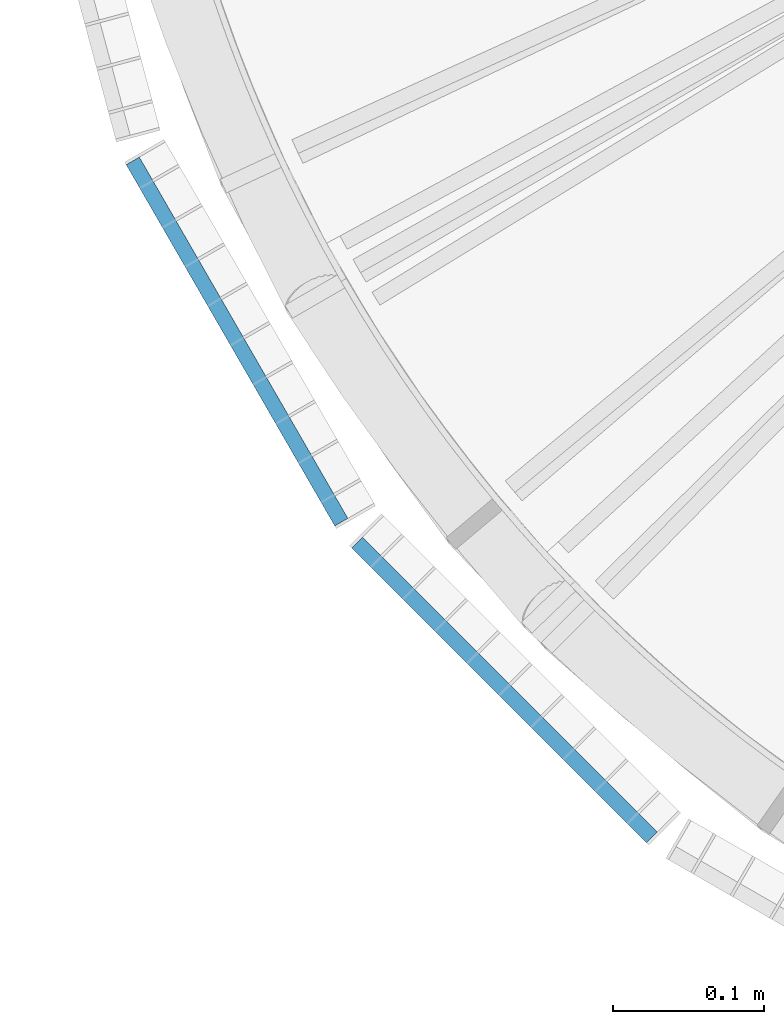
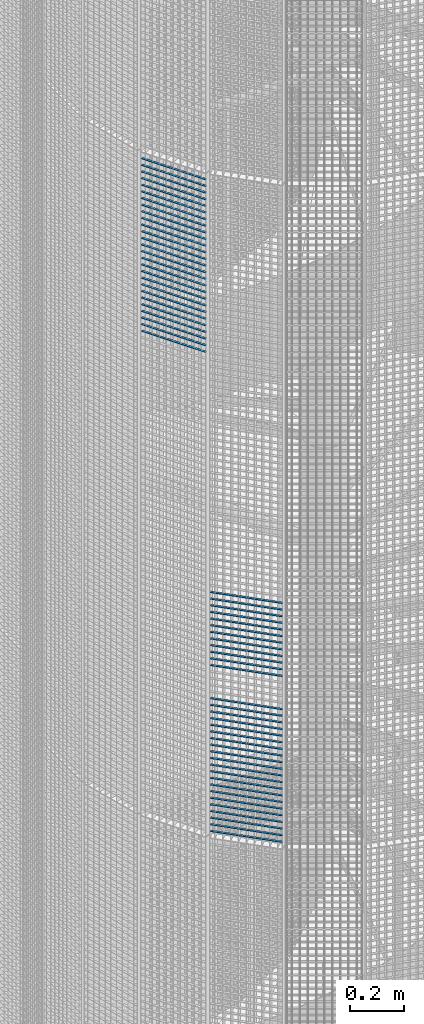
# One storey, part 114 of 1148: 60 beams, 2 elements without a shape of their own.
"""IFC2X3 building model written with IfcOpenShell, lengths in millimetres."""

from ifc_helpers import new_model, si_unit, frame, origin_with_axes, origin_2d_with_axis, place, context, subcontext, project, spatial, rectangle, extrude, material, type_object, element, aggregate, save


model = new_model("IFC2X3")

# Units and contexts
model_context = context("Model", 3, precision=1e-05, world=origin_with_axes())
body_context = subcontext(model_context, "Body", "Model", "MODEL_VIEW")
ifc_project = project(units=[si_unit("LENGTHUNIT", "METRE", prefix="MILLI"), si_unit("AREAUNIT", "SQUARE_METRE"), si_unit("VOLUMEUNIT", "CUBIC_METRE"), si_unit("MASSUNIT", "GRAM", prefix="KILO"), si_unit("TIMEUNIT", "SECOND"), si_unit("PLANEANGLEUNIT", "RADIAN"), si_unit("SOLIDANGLEUNIT", "STERADIAN"), si_unit("THERMODYNAMICTEMPERATUREUNIT", "DEGREE_CELSIUS"), si_unit("LUMINOUSINTENSITYUNIT", "LUMEN")], contexts=[model_context])

# Site, building, storey
site_placement = place(None, origin_with_axes())
site = spatial("IfcSite", under=ifc_project, at=site_placement, Name="Undefined", CompositionType="ELEMENT")
building_placement = place(site_placement, origin_with_axes())
building = spatial("IfcBuilding", under=site, at=building_placement, Name="Undefined", CompositionType="ELEMENT")
storey_placement = place(building_placement, origin_with_axes())
storey = spatial("IfcBuildingStorey", under=building, at=storey_placement, Name="Undefined", CompositionType="ELEMENT", Elevation=0.0)

# Assembly, beams
assembly_1_placement = place(storey_placement, origin_with_axes())
assembly_1 = element("IfcElementAssembly", 1, at=assembly_1_placement, inside=storey, Name="BORDURE", AssemblyPlace="NOTDEFINED", PredefinedType="NOTDEFINED")
ifc_material = material(Name="STEEL/S235JR")
beam_type = type_object("IfcBeamType", Name="PL2*10", PredefinedType="NOTDEFINED")
beam_1_placement = place(assembly_1_placement, frame((-884.927168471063, -689.771348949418, 9630.0), z_axis=(-0.70710678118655, -0.707106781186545, 0.0), x_axis=(0.707106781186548, -0.707106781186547, 0.0)))
beam_1 = element("IfcBeam", 2, at=beam_1_placement, type_object=beam_type, material=ifc_material, Name="ENTRETOISE", context=body_context, shape_type="SweptSolid", body=[
    extrude(rectangle(XDim=2.0, YDim=10.0, at=origin_2d_with_axis()), frame((275.999999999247, 9.09494701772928e-13, 1.53210777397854e-14), z_axis=(-1.0, 0.0, 0.0), x_axis=(0.0, -1.0, 0.0)), (0.0, 0.0, 1.0), 276.0),
])
beam_2_placement = place(assembly_1_placement, frame((-884.927168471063, -689.771348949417, 9780.0), z_axis=(-0.70710678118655, -0.707106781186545, 0.0), x_axis=(0.707106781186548, -0.707106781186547, 0.0)))
beam_2 = element("IfcBeam", 3, at=beam_2_placement, type_object=beam_type, material=ifc_material, Name="ENTRETOISE", context=body_context, shape_type="SweptSolid", body=[
    extrude(rectangle(XDim=2.0, YDim=10.0, at=origin_2d_with_axis()), frame((275.999999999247, 9.09494701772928e-13, 1.53210777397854e-14), z_axis=(-1.0, 0.0, 0.0), x_axis=(0.0, -1.0, 0.0)), (0.0, 0.0, 1.0), 276.0),
])
beam_3_placement = place(assembly_1_placement, frame((-884.927168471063, -689.771348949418, 9600.0), z_axis=(-0.70710678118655, -0.707106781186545, 0.0), x_axis=(0.707106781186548, -0.707106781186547, 0.0)))
beam_3 = element("IfcBeam", 4, at=beam_3_placement, type_object=beam_type, material=ifc_material, Name="ENTRETOISE", context=body_context, shape_type="SweptSolid", body=[
    extrude(rectangle(XDim=2.0, YDim=10.0, at=origin_2d_with_axis()), frame((275.999999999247, 9.09494701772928e-13, 1.53210777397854e-14), z_axis=(-1.0, 0.0, 0.0), x_axis=(0.0, -1.0, 0.0)), (0.0, 0.0, 1.0), 276.0),
])
beam_4_placement = place(assembly_1_placement, frame((-884.927168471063, -689.771348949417, 9810.0), z_axis=(-0.70710678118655, -0.707106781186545, 0.0), x_axis=(0.707106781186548, -0.707106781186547, 0.0)))
beam_4 = element("IfcBeam", 5, at=beam_4_placement, type_object=beam_type, material=ifc_material, Name="ENTRETOISE", context=body_context, shape_type="SweptSolid", body=[
    extrude(rectangle(XDim=2.0, YDim=10.0, at=origin_2d_with_axis()), frame((275.999999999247, 9.09494701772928e-13, 1.53210777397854e-14), z_axis=(-1.0, 0.0, 0.0), x_axis=(0.0, -1.0, 0.0)), (0.0, 0.0, 1.0), 276.0),
])
beam_5_placement = place(assembly_1_placement, frame((-884.927168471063, -689.771348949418, 9570.0), z_axis=(-0.70710678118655, -0.707106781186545, 0.0), x_axis=(0.707106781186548, -0.707106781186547, 0.0)))
beam_5 = element("IfcBeam", 6, at=beam_5_placement, type_object=beam_type, material=ifc_material, Name="ENTRETOISE", context=body_context, shape_type="SweptSolid", body=[
    extrude(rectangle(XDim=2.0, YDim=10.0, at=origin_2d_with_axis()), frame((275.999999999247, 9.09494701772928e-13, 1.53210777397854e-14), z_axis=(-1.0, 0.0, 0.0), x_axis=(0.0, -1.0, 0.0)), (0.0, 0.0, 1.0), 276.0),
])
beam_6_placement = place(assembly_1_placement, frame((-884.927168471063, -689.771348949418, 9540.0), z_axis=(-0.70710678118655, -0.707106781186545, 0.0), x_axis=(0.707106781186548, -0.707106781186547, 0.0)))
beam_6 = element("IfcBeam", 7, at=beam_6_placement, type_object=beam_type, material=ifc_material, Name="ENTRETOISE", context=body_context, shape_type="SweptSolid", body=[
    extrude(rectangle(XDim=2.0, YDim=10.0, at=origin_2d_with_axis()), frame((275.999999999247, 9.09494701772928e-13, 1.53210777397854e-14), z_axis=(-1.0, 0.0, 0.0), x_axis=(0.0, -1.0, 0.0)), (0.0, 0.0, 1.0), 276.0),
])
beam_7_placement = place(assembly_1_placement, frame((-884.927168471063, -689.771348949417, 9840.0), z_axis=(-0.70710678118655, -0.707106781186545, 0.0), x_axis=(0.707106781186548, -0.707106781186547, 0.0)))
beam_7 = element("IfcBeam", 8, at=beam_7_placement, type_object=beam_type, material=ifc_material, Name="ENTRETOISE", context=body_context, shape_type="SweptSolid", body=[
    extrude(rectangle(XDim=2.0, YDim=10.0, at=origin_2d_with_axis()), frame((275.999999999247, 9.09494701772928e-13, 1.53210777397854e-14), z_axis=(-1.0, 0.0, 0.0), x_axis=(0.0, -1.0, 0.0)), (0.0, 0.0, 1.0), 276.0),
])
beam_8_placement = place(assembly_1_placement, frame((-884.927168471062, -689.771348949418, 9510.0), z_axis=(-0.70710678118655, -0.707106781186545, 0.0), x_axis=(0.707106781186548, -0.707106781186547, 0.0)))
beam_8 = element("IfcBeam", 9, at=beam_8_placement, type_object=beam_type, material=ifc_material, Name="ENTRETOISE", context=body_context, shape_type="SweptSolid", body=[
    extrude(rectangle(XDim=2.0, YDim=10.0, at=origin_2d_with_axis()), frame((275.999999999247, 9.09494701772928e-13, 1.53210777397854e-14), z_axis=(-1.0, 0.0, 0.0), x_axis=(0.0, -1.0, 0.0)), (0.0, 0.0, 1.0), 276.0),
])
beam_9_placement = place(assembly_1_placement, frame((-884.927168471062, -689.771348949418, 9480.0), z_axis=(-0.70710678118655, -0.707106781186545, 0.0), x_axis=(0.707106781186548, -0.707106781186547, 0.0)))
beam_9 = element("IfcBeam", 10, at=beam_9_placement, type_object=beam_type, material=ifc_material, Name="ENTRETOISE", context=body_context, shape_type="SweptSolid", body=[
    extrude(rectangle(XDim=2.0, YDim=10.0, at=origin_2d_with_axis()), frame((275.999999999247, 9.09494701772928e-13, 1.53210777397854e-14), z_axis=(-1.0, 0.0, 0.0), x_axis=(0.0, -1.0, 0.0)), (0.0, 0.0, 1.0), 276.0),
])
beam_10_placement = place(assembly_1_placement, frame((-884.927168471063, -689.771348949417, 9870.0), z_axis=(-0.70710678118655, -0.707106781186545, 0.0), x_axis=(0.707106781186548, -0.707106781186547, 0.0)))
beam_10 = element("IfcBeam", 11, at=beam_10_placement, type_object=beam_type, material=ifc_material, Name="ENTRETOISE", context=body_context, shape_type="SweptSolid", body=[
    extrude(rectangle(XDim=2.0, YDim=10.0, at=origin_2d_with_axis()), frame((275.999999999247, 9.09494701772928e-13, 1.53210777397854e-14), z_axis=(-1.0, 0.0, 0.0), x_axis=(0.0, -1.0, 0.0)), (0.0, 0.0, 1.0), 276.0),
])
beam_11_placement = place(assembly_1_placement, frame((-884.927168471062, -689.771348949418, 9450.0), z_axis=(-0.70710678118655, -0.707106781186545, 0.0), x_axis=(0.707106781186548, -0.707106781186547, 0.0)))
beam_11 = element("IfcBeam", 12, at=beam_11_placement, type_object=beam_type, material=ifc_material, Name="ENTRETOISE", context=body_context, shape_type="SweptSolid", body=[
    extrude(rectangle(XDim=2.0, YDim=10.0, at=origin_2d_with_axis()), frame((275.999999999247, 9.09494701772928e-13, 1.53210777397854e-14), z_axis=(-1.0, 0.0, 0.0), x_axis=(0.0, -1.0, 0.0)), (0.0, 0.0, 1.0), 276.0),
])
beam_12_placement = place(assembly_1_placement, frame((-884.927168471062, -689.771348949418, 9420.0), z_axis=(-0.70710678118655, -0.707106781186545, 0.0), x_axis=(0.707106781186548, -0.707106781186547, 0.0)))
beam_12 = element("IfcBeam", 13, at=beam_12_placement, type_object=beam_type, material=ifc_material, Name="ENTRETOISE", context=body_context, shape_type="SweptSolid", body=[
    extrude(rectangle(XDim=2.0, YDim=10.0, at=origin_2d_with_axis()), frame((275.999999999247, 9.09494701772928e-13, 1.53210777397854e-14), z_axis=(-1.0, 0.0, 0.0), x_axis=(0.0, -1.0, 0.0)), (0.0, 0.0, 1.0), 276.0),
])
beam_13_placement = place(assembly_1_placement, frame((-884.927168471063, -689.771348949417, 9900.0), z_axis=(-0.70710678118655, -0.707106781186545, 0.0), x_axis=(0.707106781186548, -0.707106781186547, 0.0)))
beam_13 = element("IfcBeam", 14, at=beam_13_placement, type_object=beam_type, material=ifc_material, Name="ENTRETOISE", context=body_context, shape_type="SweptSolid", body=[
    extrude(rectangle(XDim=2.0, YDim=10.0, at=origin_2d_with_axis()), frame((275.999999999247, 9.09494701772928e-13, 1.53210777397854e-14), z_axis=(-1.0, 0.0, 0.0), x_axis=(0.0, -1.0, 0.0)), (0.0, 0.0, 1.0), 276.0),
])
beam_14_placement = place(assembly_1_placement, frame((-884.927168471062, -689.771348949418, 9390.0), z_axis=(-0.70710678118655, -0.707106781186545, 0.0), x_axis=(0.707106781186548, -0.707106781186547, 0.0)))
beam_14 = element("IfcBeam", 15, at=beam_14_placement, type_object=beam_type, material=ifc_material, Name="ENTRETOISE", context=body_context, shape_type="SweptSolid", body=[
    extrude(rectangle(XDim=2.0, YDim=10.0, at=origin_2d_with_axis()), frame((275.999999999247, 9.09494701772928e-13, 1.53210777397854e-14), z_axis=(-1.0, 0.0, 0.0), x_axis=(0.0, -1.0, 0.0)), (0.0, 0.0, 1.0), 276.0),
])
beam_15_placement = place(assembly_1_placement, frame((-884.927168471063, -689.771348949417, 9930.0), z_axis=(-0.70710678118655, -0.707106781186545, 0.0), x_axis=(0.707106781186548, -0.707106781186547, 0.0)))
beam_15 = element("IfcBeam", 16, at=beam_15_placement, type_object=beam_type, material=ifc_material, Name="ENTRETOISE", context=body_context, shape_type="SweptSolid", body=[
    extrude(rectangle(XDim=2.0, YDim=10.0, at=origin_2d_with_axis()), frame((275.999999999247, 9.09494701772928e-13, 1.53210777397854e-14), z_axis=(-1.0, 0.0, 0.0), x_axis=(0.0, -1.0, 0.0)), (0.0, 0.0, 1.0), 276.0),
])
beam_16_placement = place(assembly_1_placement, frame((-884.927168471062, -689.771348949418, 9360.0), z_axis=(-0.70710678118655, -0.707106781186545, 0.0), x_axis=(0.707106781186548, -0.707106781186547, 0.0)))
beam_16 = element("IfcBeam", 17, at=beam_16_placement, type_object=beam_type, material=ifc_material, Name="ENTRETOISE", context=body_context, shape_type="SweptSolid", body=[
    extrude(rectangle(XDim=2.0, YDim=10.0, at=origin_2d_with_axis()), frame((275.999999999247, 9.09494701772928e-13, 1.53210777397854e-14), z_axis=(-1.0, 0.0, 0.0), x_axis=(0.0, -1.0, 0.0)), (0.0, 0.0, 1.0), 276.0),
])
beam_17_placement = place(assembly_1_placement, frame((-884.927168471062, -689.771348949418, 9330.0), z_axis=(-0.70710678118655, -0.707106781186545, 0.0), x_axis=(0.707106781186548, -0.707106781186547, 0.0)))
beam_17 = element("IfcBeam", 18, at=beam_17_placement, type_object=beam_type, material=ifc_material, Name="ENTRETOISE", context=body_context, shape_type="SweptSolid", body=[
    extrude(rectangle(XDim=2.0, YDim=10.0, at=origin_2d_with_axis()), frame((275.999999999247, 9.09494701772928e-13, 1.53210777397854e-14), z_axis=(-1.0, 0.0, 0.0), x_axis=(0.0, -1.0, 0.0)), (0.0, 0.0, 1.0), 276.0),
])
beam_18_placement = place(assembly_1_placement, frame((-884.927168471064, -689.771348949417, 9960.0), z_axis=(-0.70710678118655, -0.707106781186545, 0.0), x_axis=(0.707106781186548, -0.707106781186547, 0.0)))
beam_18 = element("IfcBeam", 19, at=beam_18_placement, type_object=beam_type, material=ifc_material, Name="ENTRETOISE", context=body_context, shape_type="SweptSolid", body=[
    extrude(rectangle(XDim=2.0, YDim=10.0, at=origin_2d_with_axis()), frame((275.999999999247, 9.09494701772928e-13, 1.53210777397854e-14), z_axis=(-1.0, 0.0, 0.0), x_axis=(0.0, -1.0, 0.0)), (0.0, 0.0, 1.0), 276.0),
])
beam_19_placement = place(assembly_1_placement, frame((-884.927168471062, -689.771348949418, 9300.0), z_axis=(-0.70710678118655, -0.707106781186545, 0.0), x_axis=(0.707106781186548, -0.707106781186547, 0.0)))
beam_19 = element("IfcBeam", 20, at=beam_19_placement, type_object=beam_type, material=ifc_material, Name="ENTRETOISE", context=body_context, shape_type="SweptSolid", body=[
    extrude(rectangle(XDim=2.0, YDim=10.0, at=origin_2d_with_axis()), frame((275.999999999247, 9.09494701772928e-13, 1.53210777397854e-14), z_axis=(-1.0, 0.0, 0.0), x_axis=(0.0, -1.0, 0.0)), (0.0, 0.0, 1.0), 276.0),
])
beam_20_placement = place(assembly_1_placement, frame((-884.927168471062, -689.771348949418, 9270.0), z_axis=(-0.70710678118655, -0.707106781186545, 0.0), x_axis=(0.707106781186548, -0.707106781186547, 0.0)))
beam_20 = element("IfcBeam", 21, at=beam_20_placement, type_object=beam_type, material=ifc_material, Name="ENTRETOISE", context=body_context, shape_type="SweptSolid", body=[
    extrude(rectangle(XDim=2.0, YDim=10.0, at=origin_2d_with_axis()), frame((275.999999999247, 9.09494701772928e-13, 1.53210777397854e-14), z_axis=(-1.0, 0.0, 0.0), x_axis=(0.0, -1.0, 0.0)), (0.0, 0.0, 1.0), 276.0),
])
beam_21_placement = place(assembly_1_placement, frame((-884.927168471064, -689.771348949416, 9990.0), z_axis=(-0.70710678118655, -0.707106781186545, 0.0), x_axis=(0.707106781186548, -0.707106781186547, 0.0)))
beam_21 = element("IfcBeam", 22, at=beam_21_placement, type_object=beam_type, material=ifc_material, Name="ENTRETOISE", context=body_context, shape_type="SweptSolid", body=[
    extrude(rectangle(XDim=2.0, YDim=10.0, at=origin_2d_with_axis()), frame((275.999999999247, 9.09494701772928e-13, 1.53210777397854e-14), z_axis=(-1.0, 0.0, 0.0), x_axis=(0.0, -1.0, 0.0)), (0.0, 0.0, 1.0), 276.0),
])
beam_22_placement = place(assembly_1_placement, frame((-884.927168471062, -689.771348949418, 9240.0), z_axis=(-0.70710678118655, -0.707106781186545, 0.0), x_axis=(0.707106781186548, -0.707106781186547, 0.0)))
beam_22 = element("IfcBeam", 23, at=beam_22_placement, type_object=beam_type, material=ifc_material, Name="ENTRETOISE", context=body_context, shape_type="SweptSolid", body=[
    extrude(rectangle(XDim=2.0, YDim=10.0, at=origin_2d_with_axis()), frame((275.999999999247, 9.09494701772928e-13, 1.53210777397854e-14), z_axis=(-1.0, 0.0, 0.0), x_axis=(0.0, -1.0, 0.0)), (0.0, 0.0, 1.0), 276.0),
])
beam_23_placement = place(assembly_1_placement, frame((-884.927168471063, -689.771348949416, 10020.0), z_axis=(-0.70710678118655, -0.707106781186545, 0.0), x_axis=(0.707106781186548, -0.707106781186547, 0.0)))
beam_23 = element("IfcBeam", 24, at=beam_23_placement, type_object=beam_type, material=ifc_material, Name="ENTRETOISE", context=body_context, shape_type="SweptSolid", body=[
    extrude(rectangle(XDim=2.0, YDim=10.0, at=origin_2d_with_axis()), frame((275.999999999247, 9.09494701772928e-13, 1.53210777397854e-14), z_axis=(-1.0, 0.0, 0.0), x_axis=(0.0, -1.0, 0.0)), (0.0, 0.0, 1.0), 276.0),
])
beam_24_placement = place(assembly_1_placement, frame((-884.927168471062, -689.771348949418, 9210.0), z_axis=(-0.70710678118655, -0.707106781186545, 0.0), x_axis=(0.707106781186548, -0.707106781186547, 0.0)))
beam_24 = element("IfcBeam", 25, at=beam_24_placement, type_object=beam_type, material=ifc_material, Name="ENTRETOISE", context=body_context, shape_type="SweptSolid", body=[
    extrude(rectangle(XDim=2.0, YDim=10.0, at=origin_2d_with_axis()), frame((275.999999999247, 9.09494701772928e-13, 1.53210777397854e-14), z_axis=(-1.0, 0.0, 0.0), x_axis=(0.0, -1.0, 0.0)), (0.0, 0.0, 1.0), 276.0),
])
beam_25_placement = place(assembly_1_placement, frame((-884.927168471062, -689.771348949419, 9180.0), z_axis=(-0.70710678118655, -0.707106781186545, 0.0), x_axis=(0.707106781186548, -0.707106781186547, 0.0)))
beam_25 = element("IfcBeam", 26, at=beam_25_placement, type_object=beam_type, material=ifc_material, Name="ENTRETOISE", context=body_context, shape_type="SweptSolid", body=[
    extrude(rectangle(XDim=2.0, YDim=10.0, at=origin_2d_with_axis()), frame((275.999999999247, 9.09494701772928e-13, 1.53210777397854e-14), z_axis=(-1.0, 0.0, 0.0), x_axis=(0.0, -1.0, 0.0)), (0.0, 0.0, 1.0), 276.0),
])
beam_26_placement = place(assembly_1_placement, frame((-884.927168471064, -689.771348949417, 10050.0), z_axis=(-0.70710678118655, -0.707106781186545, 0.0), x_axis=(0.707106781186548, -0.707106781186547, 0.0)))
beam_26 = element("IfcBeam", 27, at=beam_26_placement, type_object=beam_type, material=ifc_material, Name="ENTRETOISE", context=body_context, shape_type="SweptSolid", body=[
    extrude(rectangle(XDim=2.0, YDim=10.0, at=origin_2d_with_axis()), frame((275.999999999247, 9.09494701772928e-13, 1.53210777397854e-14), z_axis=(-1.0, 0.0, 0.0), x_axis=(0.0, -1.0, 0.0)), (0.0, 0.0, 1.0), 276.0),
])
beam_27_placement = place(assembly_1_placement, frame((-884.927168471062, -689.771348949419, 9150.0), z_axis=(-0.70710678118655, -0.707106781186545, 0.0), x_axis=(0.707106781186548, -0.707106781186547, 0.0)))
beam_27 = element("IfcBeam", 28, at=beam_27_placement, type_object=beam_type, material=ifc_material, Name="ENTRETOISE", context=body_context, shape_type="SweptSolid", body=[
    extrude(rectangle(XDim=2.0, YDim=10.0, at=origin_2d_with_axis()), frame((275.999999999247, 9.09494701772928e-13, 1.53210777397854e-14), z_axis=(-1.0, 0.0, 0.0), x_axis=(0.0, -1.0, 0.0)), (0.0, 0.0, 1.0), 276.0),
])
beam_28_placement = place(assembly_1_placement, frame((-884.927168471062, -689.771348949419, 9120.0), z_axis=(-0.70710678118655, -0.707106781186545, 0.0), x_axis=(0.707106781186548, -0.707106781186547, 0.0)))
beam_28 = element("IfcBeam", 29, at=beam_28_placement, type_object=beam_type, material=ifc_material, Name="ENTRETOISE", context=body_context, shape_type="SweptSolid", body=[
    extrude(rectangle(XDim=2.0, YDim=10.0, at=origin_2d_with_axis()), frame((275.999999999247, 9.09494701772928e-13, 1.53210777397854e-14), z_axis=(-1.0, 0.0, 0.0), x_axis=(0.0, -1.0, 0.0)), (0.0, 0.0, 1.0), 276.0),
])
beam_29_placement = place(assembly_1_placement, frame((-884.927168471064, -689.771348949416, 10080.0), z_axis=(-0.70710678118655, -0.707106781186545, 0.0), x_axis=(0.707106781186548, -0.707106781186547, 0.0)))
beam_29 = element("IfcBeam", 30, at=beam_29_placement, type_object=beam_type, material=ifc_material, Name="ENTRETOISE", context=body_context, shape_type="SweptSolid", body=[
    extrude(rectangle(XDim=2.0, YDim=10.0, at=origin_2d_with_axis()), frame((275.999999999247, 9.09494701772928e-13, 1.53210777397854e-14), z_axis=(-1.0, 0.0, 0.0), x_axis=(0.0, -1.0, 0.0)), (0.0, 0.0, 1.0), 276.0),
])
beam_30_placement = place(assembly_1_placement, frame((-884.927168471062, -689.771348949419, 9090.0), z_axis=(-0.70710678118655, -0.707106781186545, 0.0), x_axis=(0.707106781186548, -0.707106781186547, 0.0)))
beam_30 = element("IfcBeam", 31, at=beam_30_placement, type_object=beam_type, material=ifc_material, Name="ENTRETOISE", context=body_context, shape_type="SweptSolid", body=[
    extrude(rectangle(XDim=2.0, YDim=10.0, at=origin_2d_with_axis()), frame((275.999999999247, 9.09494701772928e-13, 1.53210777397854e-14), z_axis=(-1.0, 0.0, 0.0), x_axis=(0.0, -1.0, 0.0)), (0.0, 0.0, 1.0), 276.0),
])
beam_31_placement = place(assembly_1_placement, frame((-884.927168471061, -689.771348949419, 9060.0), z_axis=(-0.70710678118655, -0.707106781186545, 0.0), x_axis=(0.707106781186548, -0.707106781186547, 0.0)))
beam_31 = element("IfcBeam", 32, at=beam_31_placement, type_object=beam_type, material=ifc_material, Name="ENTRETOISE", context=body_context, shape_type="SweptSolid", body=[
    extrude(rectangle(XDim=2.0, YDim=10.0, at=origin_2d_with_axis()), frame((275.999999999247, 9.09494701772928e-13, 1.53210777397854e-14), z_axis=(-1.0, 0.0, 0.0), x_axis=(0.0, -1.0, 0.0)), (0.0, 0.0, 1.0), 276.0),
])
beam_32_placement = place(assembly_1_placement, frame((-884.927168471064, -689.771348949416, 10110.0), z_axis=(-0.70710678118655, -0.707106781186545, 0.0), x_axis=(0.707106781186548, -0.707106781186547, 0.0)))
beam_32 = element("IfcBeam", 33, at=beam_32_placement, type_object=beam_type, material=ifc_material, Name="ENTRETOISE", context=body_context, shape_type="SweptSolid", body=[
    extrude(rectangle(XDim=2.0, YDim=10.0, at=origin_2d_with_axis()), frame((275.999999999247, 9.09494701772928e-13, 1.53210777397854e-14), z_axis=(-1.0, 0.0, 0.0), x_axis=(0.0, -1.0, 0.0)), (0.0, 0.0, 1.0), 276.0),
])
beam_33_placement = place(assembly_1_placement, frame((-884.92716847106, -689.771348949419, 9030.0), z_axis=(-0.70710678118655, -0.707106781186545, 0.0), x_axis=(0.707106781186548, -0.707106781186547, 0.0)))
beam_33 = element("IfcBeam", 34, at=beam_33_placement, type_object=beam_type, material=ifc_material, Name="ENTRETOISE", context=body_context, shape_type="SweptSolid", body=[
    extrude(rectangle(XDim=2.0, YDim=10.0, at=origin_2d_with_axis()), frame((275.999999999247, 9.09494701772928e-13, 1.53210777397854e-14), z_axis=(-1.0, 0.0, 0.0), x_axis=(0.0, -1.0, 0.0)), (0.0, 0.0, 1.0), 276.0),
])
aggregate(assembly_1, [beam_1, beam_2, beam_3, beam_4, beam_5, beam_6, beam_7, beam_8, beam_9, beam_10, beam_11, beam_12, beam_13, beam_14, beam_15, beam_16, beam_17, beam_18, beam_19, beam_20, beam_21, beam_22, beam_23, beam_24, beam_25, beam_26, beam_27, beam_28, beam_29, beam_30, beam_31, beam_32, beam_33])

assembly_2_placement = place(storey_placement, origin_with_axes())
assembly_2 = element("IfcElementAssembly", 35, at=assembly_2_placement, inside=storey, Name="BORDURE", AssemblyPlace="NOTDEFINED", PredefinedType="NOTDEFINED")
beam_34_placement = place(assembly_2_placement, frame((-1033.29996828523, -437.231955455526, 11970.0), z_axis=(-0.866025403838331, -0.499999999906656, 0.0), x_axis=(0.499999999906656, -0.866025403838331, 0.0)))
beam_34 = element("IfcBeam", 36, at=beam_34_placement, type_object=beam_type, material=ifc_material, Name="ENTRETOISE", context=body_context, shape_type="SweptSolid", body=[
    extrude(rectangle(XDim=2.0, YDim=10.0, at=origin_2d_with_axis()), frame((275.999999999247, 9.09494701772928e-13, 1.53210777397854e-14), z_axis=(-1.0, 0.0, 0.0), x_axis=(0.0, -1.0, 0.0)), (0.0, 0.0, 1.0), 276.0),
])
beam_35_placement = place(assembly_2_placement, frame((-1033.29996828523, -437.231955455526, 11940.0), z_axis=(-0.866025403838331, -0.499999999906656, 0.0), x_axis=(0.499999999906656, -0.866025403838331, 0.0)))
beam_35 = element("IfcBeam", 37, at=beam_35_placement, type_object=beam_type, material=ifc_material, Name="ENTRETOISE", context=body_context, shape_type="SweptSolid", body=[
    extrude(rectangle(XDim=2.0, YDim=10.0, at=origin_2d_with_axis()), frame((275.999999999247, 9.09494701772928e-13, 1.53210777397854e-14), z_axis=(-1.0, 0.0, 0.0), x_axis=(0.0, -1.0, 0.0)), (0.0, 0.0, 1.0), 276.0),
])
beam_36_placement = place(assembly_2_placement, frame((-1033.29996828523, -437.231955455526, 11910.0), z_axis=(-0.866025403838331, -0.499999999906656, 0.0), x_axis=(0.499999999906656, -0.866025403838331, 0.0)))
beam_36 = element("IfcBeam", 38, at=beam_36_placement, type_object=beam_type, material=ifc_material, Name="ENTRETOISE", context=body_context, shape_type="SweptSolid", body=[
    extrude(rectangle(XDim=2.0, YDim=10.0, at=origin_2d_with_axis()), frame((275.999999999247, 9.09494701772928e-13, 1.53210777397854e-14), z_axis=(-1.0, 0.0, 0.0), x_axis=(0.0, -1.0, 0.0)), (0.0, 0.0, 1.0), 276.0),
])
beam_37_placement = place(assembly_2_placement, frame((-1033.29996828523, -437.231955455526, 11880.0), z_axis=(-0.866025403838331, -0.499999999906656, 0.0), x_axis=(0.499999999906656, -0.866025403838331, 0.0)))
beam_37 = element("IfcBeam", 39, at=beam_37_placement, type_object=beam_type, material=ifc_material, Name="ENTRETOISE", context=body_context, shape_type="SweptSolid", body=[
    extrude(rectangle(XDim=2.0, YDim=10.0, at=origin_2d_with_axis()), frame((275.999999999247, 9.09494701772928e-13, 1.53210777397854e-14), z_axis=(-1.0, 0.0, 0.0), x_axis=(0.0, -1.0, 0.0)), (0.0, 0.0, 1.0), 276.0),
])
beam_38_placement = place(assembly_2_placement, frame((-1033.29996828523, -437.231955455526, 11850.0), z_axis=(-0.866025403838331, -0.499999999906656, 0.0), x_axis=(0.499999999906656, -0.866025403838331, 0.0)))
beam_38 = element("IfcBeam", 40, at=beam_38_placement, type_object=beam_type, material=ifc_material, Name="ENTRETOISE", context=body_context, shape_type="SweptSolid", body=[
    extrude(rectangle(XDim=2.0, YDim=10.0, at=origin_2d_with_axis()), frame((275.999999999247, 9.09494701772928e-13, 1.53210777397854e-14), z_axis=(-1.0, 0.0, 0.0), x_axis=(0.0, -1.0, 0.0)), (0.0, 0.0, 1.0), 276.0),
])
beam_39_placement = place(assembly_2_placement, frame((-1033.29996828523, -437.231955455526, 11820.0), z_axis=(-0.866025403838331, -0.499999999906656, 0.0), x_axis=(0.499999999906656, -0.866025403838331, 0.0)))
beam_39 = element("IfcBeam", 41, at=beam_39_placement, type_object=beam_type, material=ifc_material, Name="ENTRETOISE", context=body_context, shape_type="SweptSolid", body=[
    extrude(rectangle(XDim=2.0, YDim=10.0, at=origin_2d_with_axis()), frame((275.999999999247, 9.09494701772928e-13, 1.53210777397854e-14), z_axis=(-1.0, 0.0, 0.0), x_axis=(0.0, -1.0, 0.0)), (0.0, 0.0, 1.0), 276.0),
])
beam_40_placement = place(assembly_2_placement, frame((-1033.29996828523, -437.231955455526, 11790.0), z_axis=(-0.866025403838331, -0.499999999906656, 0.0), x_axis=(0.499999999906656, -0.866025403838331, 0.0)))
beam_40 = element("IfcBeam", 42, at=beam_40_placement, type_object=beam_type, material=ifc_material, Name="ENTRETOISE", context=body_context, shape_type="SweptSolid", body=[
    extrude(rectangle(XDim=2.0, YDim=10.0, at=origin_2d_with_axis()), frame((275.999999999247, 9.09494701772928e-13, 1.53210777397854e-14), z_axis=(-1.0, 0.0, 0.0), x_axis=(0.0, -1.0, 0.0)), (0.0, 0.0, 1.0), 276.0),
])
beam_41_placement = place(assembly_2_placement, frame((-1033.29996828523, -437.231955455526, 11760.0), z_axis=(-0.866025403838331, -0.499999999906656, 0.0), x_axis=(0.499999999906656, -0.866025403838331, 0.0)))
beam_41 = element("IfcBeam", 43, at=beam_41_placement, type_object=beam_type, material=ifc_material, Name="ENTRETOISE", context=body_context, shape_type="SweptSolid", body=[
    extrude(rectangle(XDim=2.0, YDim=10.0, at=origin_2d_with_axis()), frame((275.999999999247, 9.09494701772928e-13, 1.53210777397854e-14), z_axis=(-1.0, 0.0, 0.0), x_axis=(0.0, -1.0, 0.0)), (0.0, 0.0, 1.0), 276.0),
])
beam_42_placement = place(assembly_2_placement, frame((-1033.29996828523, -437.231955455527, 11730.0), z_axis=(-0.866025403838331, -0.499999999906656, 0.0), x_axis=(0.499999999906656, -0.866025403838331, 0.0)))
beam_42 = element("IfcBeam", 44, at=beam_42_placement, type_object=beam_type, material=ifc_material, Name="ENTRETOISE", context=body_context, shape_type="SweptSolid", body=[
    extrude(rectangle(XDim=2.0, YDim=10.0, at=origin_2d_with_axis()), frame((275.999999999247, 9.09494701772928e-13, 1.53210777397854e-14), z_axis=(-1.0, 0.0, 0.0), x_axis=(0.0, -1.0, 0.0)), (0.0, 0.0, 1.0), 276.0),
])
beam_43_placement = place(assembly_2_placement, frame((-1033.29996828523, -437.231955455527, 11700.0), z_axis=(-0.866025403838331, -0.499999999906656, 0.0), x_axis=(0.499999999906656, -0.866025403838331, 0.0)))
beam_43 = element("IfcBeam", 45, at=beam_43_placement, type_object=beam_type, material=ifc_material, Name="ENTRETOISE", context=body_context, shape_type="SweptSolid", body=[
    extrude(rectangle(XDim=2.0, YDim=10.0, at=origin_2d_with_axis()), frame((275.999999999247, 9.09494701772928e-13, 1.53210777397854e-14), z_axis=(-1.0, 0.0, 0.0), x_axis=(0.0, -1.0, 0.0)), (0.0, 0.0, 1.0), 276.0),
])
beam_44_placement = place(assembly_2_placement, frame((-1033.29996828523, -437.231955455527, 11670.0), z_axis=(-0.866025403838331, -0.499999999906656, 0.0), x_axis=(0.499999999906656, -0.866025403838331, 0.0)))
beam_44 = element("IfcBeam", 46, at=beam_44_placement, type_object=beam_type, material=ifc_material, Name="ENTRETOISE", context=body_context, shape_type="SweptSolid", body=[
    extrude(rectangle(XDim=2.0, YDim=10.0, at=origin_2d_with_axis()), frame((275.999999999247, 9.09494701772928e-13, 1.53210777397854e-14), z_axis=(-1.0, 0.0, 0.0), x_axis=(0.0, -1.0, 0.0)), (0.0, 0.0, 1.0), 276.0),
])
beam_45_placement = place(assembly_2_placement, frame((-1033.29996828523, -437.231955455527, 11640.0), z_axis=(-0.866025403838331, -0.499999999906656, 0.0), x_axis=(0.499999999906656, -0.866025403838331, 0.0)))
beam_45 = element("IfcBeam", 47, at=beam_45_placement, type_object=beam_type, material=ifc_material, Name="ENTRETOISE", context=body_context, shape_type="SweptSolid", body=[
    extrude(rectangle(XDim=2.0, YDim=10.0, at=origin_2d_with_axis()), frame((275.999999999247, 9.09494701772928e-13, 1.53210777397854e-14), z_axis=(-1.0, 0.0, 0.0), x_axis=(0.0, -1.0, 0.0)), (0.0, 0.0, 1.0), 276.0),
])
beam_46_placement = place(assembly_2_placement, frame((-1033.29996828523, -437.231955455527, 11610.0), z_axis=(-0.866025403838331, -0.499999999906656, 0.0), x_axis=(0.499999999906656, -0.866025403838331, 0.0)))
beam_46 = element("IfcBeam", 48, at=beam_46_placement, type_object=beam_type, material=ifc_material, Name="ENTRETOISE", context=body_context, shape_type="SweptSolid", body=[
    extrude(rectangle(XDim=2.0, YDim=10.0, at=origin_2d_with_axis()), frame((275.999999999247, 9.09494701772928e-13, 1.53210777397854e-14), z_axis=(-1.0, 0.0, 0.0), x_axis=(0.0, -1.0, 0.0)), (0.0, 0.0, 1.0), 276.0),
])
beam_47_placement = place(assembly_2_placement, frame((-1033.29996828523, -437.231955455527, 11580.0), z_axis=(-0.866025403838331, -0.499999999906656, 0.0), x_axis=(0.499999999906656, -0.866025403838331, 0.0)))
beam_47 = element("IfcBeam", 49, at=beam_47_placement, type_object=beam_type, material=ifc_material, Name="ENTRETOISE", context=body_context, shape_type="SweptSolid", body=[
    extrude(rectangle(XDim=2.0, YDim=10.0, at=origin_2d_with_axis()), frame((275.999999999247, 9.09494701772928e-13, 1.53210777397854e-14), z_axis=(-1.0, 0.0, 0.0), x_axis=(0.0, -1.0, 0.0)), (0.0, 0.0, 1.0), 276.0),
])
beam_48_placement = place(assembly_2_placement, frame((-1033.29996828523, -437.231955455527, 11550.0), z_axis=(-0.866025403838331, -0.499999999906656, 0.0), x_axis=(0.499999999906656, -0.866025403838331, 0.0)))
beam_48 = element("IfcBeam", 50, at=beam_48_placement, type_object=beam_type, material=ifc_material, Name="ENTRETOISE", context=body_context, shape_type="SweptSolid", body=[
    extrude(rectangle(XDim=2.0, YDim=10.0, at=origin_2d_with_axis()), frame((275.999999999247, 9.09494701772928e-13, 1.53210777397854e-14), z_axis=(-1.0, 0.0, 0.0), x_axis=(0.0, -1.0, 0.0)), (0.0, 0.0, 1.0), 276.0),
])
beam_49_placement = place(assembly_2_placement, frame((-1033.29996828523, -437.231955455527, 11520.0), z_axis=(-0.866025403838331, -0.499999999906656, 0.0), x_axis=(0.499999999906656, -0.866025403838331, 0.0)))
beam_49 = element("IfcBeam", 51, at=beam_49_placement, type_object=beam_type, material=ifc_material, Name="ENTRETOISE", context=body_context, shape_type="SweptSolid", body=[
    extrude(rectangle(XDim=2.0, YDim=10.0, at=origin_2d_with_axis()), frame((275.999999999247, 9.09494701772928e-13, 1.53210777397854e-14), z_axis=(-1.0, 0.0, 0.0), x_axis=(0.0, -1.0, 0.0)), (0.0, 0.0, 1.0), 276.0),
])
beam_50_placement = place(assembly_2_placement, frame((-1033.29996828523, -437.231955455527, 11490.0), z_axis=(-0.866025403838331, -0.499999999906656, 0.0), x_axis=(0.499999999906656, -0.866025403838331, 0.0)))
beam_50 = element("IfcBeam", 52, at=beam_50_placement, type_object=beam_type, material=ifc_material, Name="ENTRETOISE", context=body_context, shape_type="SweptSolid", body=[
    extrude(rectangle(XDim=2.0, YDim=10.0, at=origin_2d_with_axis()), frame((275.999999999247, 9.09494701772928e-13, 1.53210777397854e-14), z_axis=(-1.0, 0.0, 0.0), x_axis=(0.0, -1.0, 0.0)), (0.0, 0.0, 1.0), 276.0),
])
beam_51_placement = place(assembly_2_placement, frame((-1033.29996828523, -437.231955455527, 11460.0), z_axis=(-0.866025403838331, -0.499999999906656, 0.0), x_axis=(0.499999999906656, -0.866025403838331, 0.0)))
beam_51 = element("IfcBeam", 53, at=beam_51_placement, type_object=beam_type, material=ifc_material, Name="ENTRETOISE", context=body_context, shape_type="SweptSolid", body=[
    extrude(rectangle(XDim=2.0, YDim=10.0, at=origin_2d_with_axis()), frame((275.999999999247, 9.09494701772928e-13, 1.53210777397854e-14), z_axis=(-1.0, 0.0, 0.0), x_axis=(0.0, -1.0, 0.0)), (0.0, 0.0, 1.0), 276.0),
])
beam_52_placement = place(assembly_2_placement, frame((-1033.29996828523, -437.231955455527, 11430.0), z_axis=(-0.866025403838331, -0.499999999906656, 0.0), x_axis=(0.499999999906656, -0.866025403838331, 0.0)))
beam_52 = element("IfcBeam", 54, at=beam_52_placement, type_object=beam_type, material=ifc_material, Name="ENTRETOISE", context=body_context, shape_type="SweptSolid", body=[
    extrude(rectangle(XDim=2.0, YDim=10.0, at=origin_2d_with_axis()), frame((275.999999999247, 9.09494701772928e-13, 1.53210777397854e-14), z_axis=(-1.0, 0.0, 0.0), x_axis=(0.0, -1.0, 0.0)), (0.0, 0.0, 1.0), 276.0),
])
beam_53_placement = place(assembly_2_placement, frame((-1033.29996828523, -437.231955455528, 11400.0), z_axis=(-0.866025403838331, -0.499999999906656, 0.0), x_axis=(0.499999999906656, -0.866025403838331, 0.0)))
beam_53 = element("IfcBeam", 55, at=beam_53_placement, type_object=beam_type, material=ifc_material, Name="ENTRETOISE", context=body_context, shape_type="SweptSolid", body=[
    extrude(rectangle(XDim=2.0, YDim=10.0, at=origin_2d_with_axis()), frame((275.999999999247, 9.09494701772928e-13, 1.53210777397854e-14), z_axis=(-1.0, 0.0, 0.0), x_axis=(0.0, -1.0, 0.0)), (0.0, 0.0, 1.0), 276.0),
])
beam_54_placement = place(assembly_2_placement, frame((-1033.29996828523, -437.231955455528, 11370.0), z_axis=(-0.866025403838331, -0.499999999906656, 0.0), x_axis=(0.499999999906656, -0.866025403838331, 0.0)))
beam_54 = element("IfcBeam", 56, at=beam_54_placement, type_object=beam_type, material=ifc_material, Name="ENTRETOISE", context=body_context, shape_type="SweptSolid", body=[
    extrude(rectangle(XDim=2.0, YDim=10.0, at=origin_2d_with_axis()), frame((275.999999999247, 9.09494701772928e-13, 1.53210777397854e-14), z_axis=(-1.0, 0.0, 0.0), x_axis=(0.0, -1.0, 0.0)), (0.0, 0.0, 1.0), 276.0),
])
beam_55_placement = place(assembly_2_placement, frame((-1033.29996828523, -437.231955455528, 11340.0), z_axis=(-0.866025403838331, -0.499999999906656, 0.0), x_axis=(0.499999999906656, -0.866025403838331, 0.0)))
beam_55 = element("IfcBeam", 57, at=beam_55_placement, type_object=beam_type, material=ifc_material, Name="ENTRETOISE", context=body_context, shape_type="SweptSolid", body=[
    extrude(rectangle(XDim=2.0, YDim=10.0, at=origin_2d_with_axis()), frame((275.999999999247, 9.09494701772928e-13, 1.53210777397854e-14), z_axis=(-1.0, 0.0, 0.0), x_axis=(0.0, -1.0, 0.0)), (0.0, 0.0, 1.0), 276.0),
])
beam_56_placement = place(assembly_2_placement, frame((-1033.29996828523, -437.231955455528, 11310.0), z_axis=(-0.866025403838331, -0.499999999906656, 0.0), x_axis=(0.499999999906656, -0.866025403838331, 0.0)))
beam_56 = element("IfcBeam", 58, at=beam_56_placement, type_object=beam_type, material=ifc_material, Name="ENTRETOISE", context=body_context, shape_type="SweptSolid", body=[
    extrude(rectangle(XDim=2.0, YDim=10.0, at=origin_2d_with_axis()), frame((275.999999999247, 9.09494701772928e-13, 1.53210777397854e-14), z_axis=(-1.0, 0.0, 0.0), x_axis=(0.0, -1.0, 0.0)), (0.0, 0.0, 1.0), 276.0),
])
beam_57_placement = place(assembly_2_placement, frame((-1033.29996828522, -437.231955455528, 11280.0), z_axis=(-0.866025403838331, -0.499999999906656, 0.0), x_axis=(0.499999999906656, -0.866025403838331, 0.0)))
beam_57 = element("IfcBeam", 59, at=beam_57_placement, type_object=beam_type, material=ifc_material, Name="ENTRETOISE", context=body_context, shape_type="SweptSolid", body=[
    extrude(rectangle(XDim=2.0, YDim=10.0, at=origin_2d_with_axis()), frame((275.999999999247, 9.09494701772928e-13, 1.53210777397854e-14), z_axis=(-1.0, 0.0, 0.0), x_axis=(0.0, -1.0, 0.0)), (0.0, 0.0, 1.0), 276.0),
])
beam_58_placement = place(assembly_2_placement, frame((-1033.29996828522, -437.231955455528, 11250.0), z_axis=(-0.866025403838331, -0.499999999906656, 0.0), x_axis=(0.499999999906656, -0.866025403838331, 0.0)))
beam_58 = element("IfcBeam", 60, at=beam_58_placement, type_object=beam_type, material=ifc_material, Name="ENTRETOISE", context=body_context, shape_type="SweptSolid", body=[
    extrude(rectangle(XDim=2.0, YDim=10.0, at=origin_2d_with_axis()), frame((275.999999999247, 9.09494701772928e-13, 1.53210777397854e-14), z_axis=(-1.0, 0.0, 0.0), x_axis=(0.0, -1.0, 0.0)), (0.0, 0.0, 1.0), 276.0),
])
beam_59_placement = place(assembly_2_placement, frame((-1033.29996828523, -437.231955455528, 11220.0), z_axis=(-0.866025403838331, -0.499999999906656, 0.0), x_axis=(0.499999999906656, -0.866025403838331, 0.0)))
beam_59 = element("IfcBeam", 61, at=beam_59_placement, type_object=beam_type, material=ifc_material, Name="ENTRETOISE", context=body_context, shape_type="SweptSolid", body=[
    extrude(rectangle(XDim=2.0, YDim=10.0, at=origin_2d_with_axis()), frame((275.999999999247, 9.09494701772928e-13, 1.53210777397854e-14), z_axis=(-1.0, 0.0, 0.0), x_axis=(0.0, -1.0, 0.0)), (0.0, 0.0, 1.0), 276.0),
])
beam_60_placement = place(assembly_2_placement, frame((-1033.29996828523, -437.231955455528, 11190.0), z_axis=(-0.866025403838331, -0.499999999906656, 0.0), x_axis=(0.499999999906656, -0.866025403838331, 0.0)))
beam_60 = element("IfcBeam", 62, at=beam_60_placement, type_object=beam_type, material=ifc_material, Name="ENTRETOISE", context=body_context, shape_type="SweptSolid", body=[
    extrude(rectangle(XDim=2.0, YDim=10.0, at=origin_2d_with_axis()), frame((275.999999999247, 9.09494701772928e-13, 1.53210777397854e-14), z_axis=(-1.0, 0.0, 0.0), x_axis=(0.0, -1.0, 0.0)), (0.0, 0.0, 1.0), 276.0),
])
aggregate(assembly_2, [beam_34, beam_35, beam_36, beam_37, beam_38, beam_39, beam_40, beam_41, beam_42, beam_43, beam_44, beam_45, beam_46, beam_47, beam_48, beam_49, beam_50, beam_51, beam_52, beam_53, beam_54, beam_55, beam_56, beam_57, beam_58, beam_59, beam_60])

save(model, "model.ifc")
